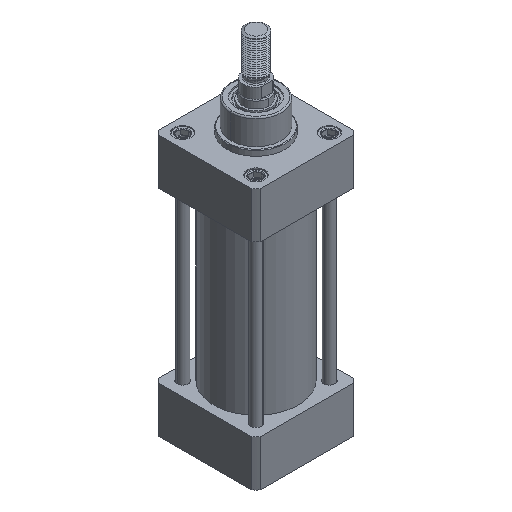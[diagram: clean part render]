
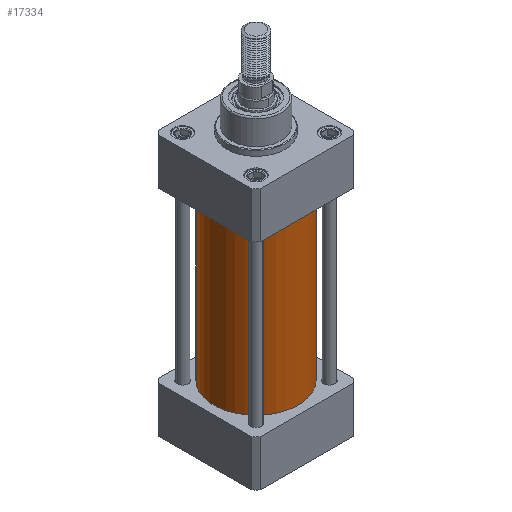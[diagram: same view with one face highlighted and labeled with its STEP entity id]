
A CAD part, isometric view. The second image highlights one B-rep face of the part: STEP entity #17334.
In plain terms, the highlighted cylindrical face has radius 32.7 mm (diameter 65.4 mm), a partial arc.
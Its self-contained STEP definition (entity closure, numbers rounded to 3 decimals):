
#7249 = DIRECTION ( 'NONE',  ( 1., 0., 0. ) ) ;
#7250 = DIRECTION ( 'NONE',  ( 0., 0., 1. ) ) ;
#7251 = CARTESIAN_POINT ( 'NONE',  ( 0., 0., 130. ) ) ;
#7252 = AXIS2_PLACEMENT_3D ( 'NONE', #7251, #7250, #7249 ) ;
#7253 = CIRCLE ( 'NONE', #7252, 32.7 ) ;
#7284 = CARTESIAN_POINT ( 'NONE',  ( 32.7, 0., 0. ) ) ;
#7285 = DIRECTION ( 'NONE',  ( 0., 0., -1. ) ) ;
#7286 = VECTOR ( 'NONE', #7285, 1000. ) ;
#7287 = CARTESIAN_POINT ( 'NONE',  ( 32.7, 0., 130. ) ) ;
#7288 = LINE ( 'NONE', #7287, #7286 ) ;
#7289 = CARTESIAN_POINT ( 'NONE',  ( -32.7, 0., 130. ) ) ;
#7290 = CARTESIAN_POINT ( 'NONE',  ( 32.7, 0., 130. ) ) ;
#7296 = DIRECTION ( 'NONE',  ( 1., 0., 0. ) ) ;
#7297 = DIRECTION ( 'NONE',  ( 0., 0., 1. ) ) ;
#7298 = CARTESIAN_POINT ( 'NONE',  ( 0., 0., 0. ) ) ;
#7299 = AXIS2_PLACEMENT_3D ( 'NONE', #7298, #7297, #7296 ) ;
#7300 = CIRCLE ( 'NONE', #7299, 32.7 ) ;
#7338 = DIRECTION ( 'NONE',  ( 0., 0., -1. ) ) ;
#7339 = VECTOR ( 'NONE', #7338, 1000. ) ;
#7340 = CARTESIAN_POINT ( 'NONE',  ( -32.7, 0., 130. ) ) ;
#7341 = LINE ( 'NONE', #7340, #7339 ) ;
#7342 = CARTESIAN_POINT ( 'NONE',  ( -32.7, 0., 0. ) ) ;
#7416 = DIRECTION ( 'NONE',  ( -1., 0., 0. ) ) ;
#7417 = DIRECTION ( 'NONE',  ( 0., 0., -1. ) ) ;
#7418 = AXIS2_PLACEMENT_3D ( 'NONE', #7421, #7417, #7416 ) ;
#7419 = CYLINDRICAL_SURFACE ( 'NONE', #7418, 32.7 ) ;
#7421 = CARTESIAN_POINT ( 'NONE',  ( 0., 0., 130. ) ) ;
#7427 = FACE_OUTER_BOUND ( 'NONE', #17335, .T. ) ;
#17253 = ORIENTED_EDGE ( 'NONE', *, *, #17279, .F. ) ;
#17254 = ORIENTED_EDGE ( 'NONE', *, *, #17261, .F. ) ;
#17255 = ORIENTED_EDGE ( 'NONE', *, *, #17285, .T. ) ;
#17256 = ORIENTED_EDGE ( 'NONE', *, *, #17270, .T. ) ;
#17261 = EDGE_CURVE ( 'NONE', #17277, #17276, #7253, .T. ) ;
#17270 = EDGE_CURVE ( 'NONE', #17283, #17280, #7300, .T. ) ;
#17276 = VERTEX_POINT ( 'NONE', #7290 ) ;
#17277 = VERTEX_POINT ( 'NONE', #7289 ) ;
#17279 = EDGE_CURVE ( 'NONE', #17276, #17280, #7288, .T. ) ;
#17280 = VERTEX_POINT ( 'NONE', #7284 ) ;
#17283 = VERTEX_POINT ( 'NONE', #7342 ) ;
#17285 = EDGE_CURVE ( 'NONE', #17277, #17283, #7341, .T. ) ;
#17334 = ADVANCED_FACE ( 'NONE', ( #7427 ), #7419, .T. ) ;
#17335 = EDGE_LOOP ( 'NONE', ( #17253, #17254, #17255, #17256 ) ) ;
